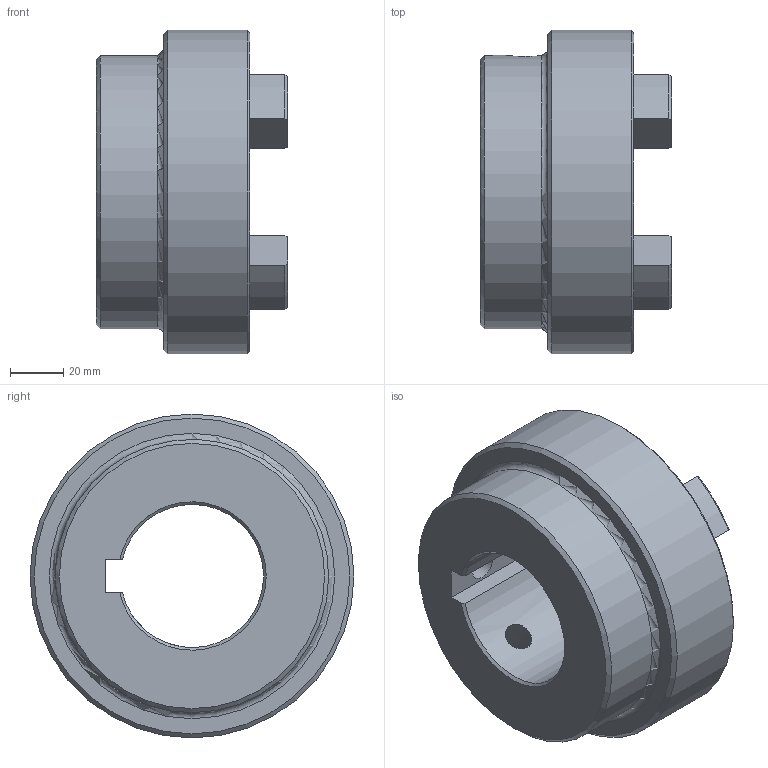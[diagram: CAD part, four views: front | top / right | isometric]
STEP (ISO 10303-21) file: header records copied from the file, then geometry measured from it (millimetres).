
FILE_DESCRIPTION (( 'STEP AP203' ), '1' );
FILE_NAME ('RC5.step', '2024-07-25T13:38:46', ( 'Adlan' ), ( '' ), 'SwSTEP 2.0', 'SolidWorks 2013', '' );
FILE_SCHEMA (( 'CONFIG_CONTROL_DESIGN' ));
Length unit declared in the file: inch
Products named in the file (1): RC5
Bounding box: 72.14 x 122.17 x 122.17 mm (x, y, z)
Volume: 378152.9 mm3; surface area: 59518.2 mm2
Topology: 1 solids, 1 shells, 85 faces, 224 edges, 141 vertices
Faces by surface type: cylinder 33, plane 21, torus 17, cone 14
Full cylindrical faces by diameter (mm): 10.716 x2, 103.124 x1, 122.174 x1
Entity records: 2893 total; most frequent: CARTESIAN_POINT 742, DIRECTION 456, ORIENTED_EDGE 416, EDGE_CURVE 208, AXIS2_PLACEMENT_3D 183, VERTEX_POINT 135, EDGE_LOOP 101, CIRCLE 97
